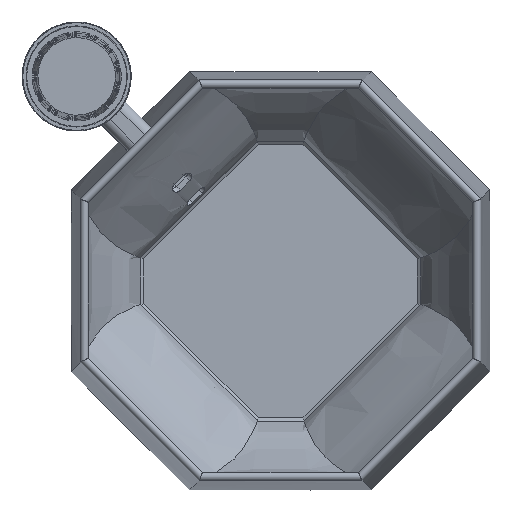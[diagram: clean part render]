
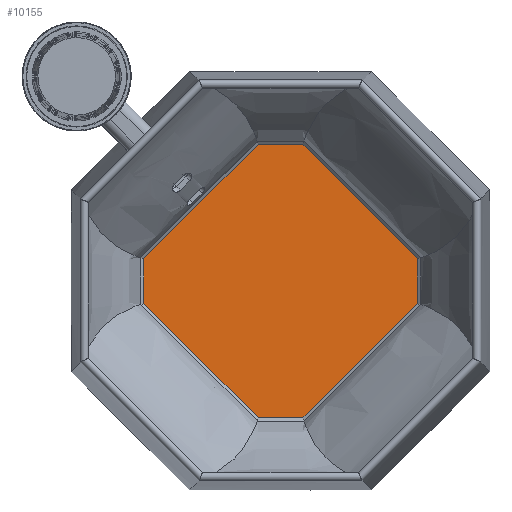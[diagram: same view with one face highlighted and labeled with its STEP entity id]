
A CAD part, top view. The second image highlights one B-rep face of the part: STEP entity #10155.
In plain terms, the highlighted planar face has unit normal (0, 0, 1).
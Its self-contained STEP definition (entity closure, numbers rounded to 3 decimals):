
#912=PLANE('',#11316);
#3103=FACE_OUTER_BOUND('',#3706,.T.);
#3706=EDGE_LOOP('',(#9539,#9540,#9541,#9542,#9543,#9544,#9545,#9546));
#3879=B_SPLINE_CURVE_WITH_KNOTS('',3,(#23145,#23146,#23147,#23148,#23149,
#23150),.UNSPECIFIED.,.F.,.F.,(4,2,4),(0.093,2.544,
4.994),.UNSPECIFIED.);
#3882=B_SPLINE_CURVE_WITH_KNOTS('',3,(#23178,#23179,#23180,#23181,#23182,
#23183),.UNSPECIFIED.,.F.,.F.,(4,2,4),(0.079,0.758,
1.438),.UNSPECIFIED.);
#3885=B_SPLINE_CURVE_WITH_KNOTS('',3,(#23213,#23214,#23215,#23216,#23217,
#23218),.UNSPECIFIED.,.F.,.F.,(4,2,4),(0.079,0.758,
1.438),.UNSPECIFIED.);
#3888=B_SPLINE_CURVE_WITH_KNOTS('',3,(#23247,#23248,#23249,#23250,#23251,
#23252),.UNSPECIFIED.,.F.,.F.,(4,2,4),(0.079,0.758,
1.438),.UNSPECIFIED.);
#3890=B_SPLINE_CURVE_WITH_KNOTS('',3,(#23276,#23277,#23278,#23279,#23280,
#23281),.UNSPECIFIED.,.F.,.F.,(4,2,4),(0.093,2.544,
4.994),.UNSPECIFIED.);
#3892=B_SPLINE_CURVE_WITH_KNOTS('',3,(#23305,#23306,#23307,#23308,#23309,
#23310),.UNSPECIFIED.,.F.,.F.,(4,2,4),(0.079,0.758,
1.438),.UNSPECIFIED.);
#3894=B_SPLINE_CURVE_WITH_KNOTS('',3,(#23333,#23334,#23335,#23336,#23337,
#23338),.UNSPECIFIED.,.F.,.F.,(4,2,4),(0.093,2.544,
4.994),.UNSPECIFIED.);
#3895=B_SPLINE_CURVE_WITH_KNOTS('',3,(#23355,#23356,#23357,#23358,#23359,
#23360),.UNSPECIFIED.,.F.,.F.,(4,2,4),(0.093,2.544,
4.994),.UNSPECIFIED.);
#4940=VERTEX_POINT('',#23137);
#4941=VERTEX_POINT('',#23144);
#4942=VERTEX_POINT('',#23177);
#4943=VERTEX_POINT('',#23206);
#4944=VERTEX_POINT('',#23239);
#4945=VERTEX_POINT('',#23246);
#4946=VERTEX_POINT('',#23275);
#4947=VERTEX_POINT('',#23304);
#6474=EDGE_CURVE('',#4941,#4940,#3879,.T.);
#6477=EDGE_CURVE('',#4942,#4941,#3882,.T.);
#6480=EDGE_CURVE('',#4940,#4943,#3885,.T.);
#6483=EDGE_CURVE('',#4945,#4944,#3888,.T.);
#6485=EDGE_CURVE('',#4946,#4945,#3890,.T.);
#6487=EDGE_CURVE('',#4947,#4946,#3892,.T.);
#6489=EDGE_CURVE('',#4943,#4947,#3894,.T.);
#6490=EDGE_CURVE('',#4944,#4942,#3895,.T.);
#9539=ORIENTED_EDGE('',*,*,#6483,.T.);
#9540=ORIENTED_EDGE('',*,*,#6490,.T.);
#9541=ORIENTED_EDGE('',*,*,#6477,.T.);
#9542=ORIENTED_EDGE('',*,*,#6474,.T.);
#9543=ORIENTED_EDGE('',*,*,#6480,.T.);
#9544=ORIENTED_EDGE('',*,*,#6489,.T.);
#9545=ORIENTED_EDGE('',*,*,#6487,.T.);
#9546=ORIENTED_EDGE('',*,*,#6485,.T.);
#10155=ADVANCED_FACE('',(#3103),#912,.T.);
#11316=AXIS2_PLACEMENT_3D('',#23505,#14266,#14267);
#14266=DIRECTION('center_axis',(0.,0.,1.));
#14267=DIRECTION('ref_axis',(1.,0.,0.));
#23137=CARTESIAN_POINT('',(-10.927,-37.314,1.35));
#23144=CARTESIAN_POINT('',(-45.583,-2.658,1.35));
#23145=CARTESIAN_POINT('Ctrl Pts',(-45.583,-2.658,
1.35));
#23146=CARTESIAN_POINT('Ctrl Pts',(-39.807,-8.434,
1.35));
#23147=CARTESIAN_POINT('Ctrl Pts',(-34.031,-14.21,
1.35));
#23148=CARTESIAN_POINT('Ctrl Pts',(-22.479,-25.762,
1.35));
#23149=CARTESIAN_POINT('Ctrl Pts',(-16.703,-31.538,
1.35));
#23150=CARTESIAN_POINT('Ctrl Pts',(-10.927,-37.314,
1.35));
#23177=CARTESIAN_POINT('',(-45.583,10.927,1.35));
#23178=CARTESIAN_POINT('Ctrl Pts',(-45.583,10.927,1.35));
#23179=CARTESIAN_POINT('Ctrl Pts',(-45.583,8.663,1.35));
#23180=CARTESIAN_POINT('Ctrl Pts',(-45.583,6.399,1.35));
#23181=CARTESIAN_POINT('Ctrl Pts',(-45.583,1.871,1.35));
#23182=CARTESIAN_POINT('Ctrl Pts',(-45.583,-0.394,
1.35));
#23183=CARTESIAN_POINT('Ctrl Pts',(-45.583,-2.658,
1.35));
#23206=CARTESIAN_POINT('',(2.658,-37.314,1.35));
#23213=CARTESIAN_POINT('Ctrl Pts',(-10.927,-37.314,
1.35));
#23214=CARTESIAN_POINT('Ctrl Pts',(-8.663,-37.314,
1.35));
#23215=CARTESIAN_POINT('Ctrl Pts',(-6.399,-37.314,1.35));
#23216=CARTESIAN_POINT('Ctrl Pts',(-1.871,-37.314,
1.35));
#23217=CARTESIAN_POINT('Ctrl Pts',(0.394,-37.314,
1.35));
#23218=CARTESIAN_POINT('Ctrl Pts',(2.658,-37.314,1.35));
#23239=CARTESIAN_POINT('',(-10.927,45.583,1.35));
#23246=CARTESIAN_POINT('',(2.658,45.583,1.35));
#23247=CARTESIAN_POINT('Ctrl Pts',(2.658,45.583,1.35));
#23248=CARTESIAN_POINT('Ctrl Pts',(0.394,45.583,1.35));
#23249=CARTESIAN_POINT('Ctrl Pts',(-1.871,45.583,1.35));
#23250=CARTESIAN_POINT('Ctrl Pts',(-6.399,45.583,1.35));
#23251=CARTESIAN_POINT('Ctrl Pts',(-8.663,45.583,1.35));
#23252=CARTESIAN_POINT('Ctrl Pts',(-10.927,45.583,1.35));
#23275=CARTESIAN_POINT('',(37.314,10.927,1.35));
#23276=CARTESIAN_POINT('Ctrl Pts',(37.314,10.927,1.35));
#23277=CARTESIAN_POINT('Ctrl Pts',(31.538,16.703,1.35));
#23278=CARTESIAN_POINT('Ctrl Pts',(25.762,22.479,1.35));
#23279=CARTESIAN_POINT('Ctrl Pts',(14.21,34.031,1.35));
#23280=CARTESIAN_POINT('Ctrl Pts',(8.434,39.807,1.35));
#23281=CARTESIAN_POINT('Ctrl Pts',(2.658,45.583,1.35));
#23304=CARTESIAN_POINT('',(37.314,-2.658,1.35));
#23305=CARTESIAN_POINT('Ctrl Pts',(37.314,-2.658,1.35));
#23306=CARTESIAN_POINT('Ctrl Pts',(37.314,-0.394,
1.35));
#23307=CARTESIAN_POINT('Ctrl Pts',(37.314,1.871,1.35));
#23308=CARTESIAN_POINT('Ctrl Pts',(37.314,6.399,1.35));
#23309=CARTESIAN_POINT('Ctrl Pts',(37.314,8.663,1.35));
#23310=CARTESIAN_POINT('Ctrl Pts',(37.314,10.927,1.35));
#23333=CARTESIAN_POINT('Ctrl Pts',(2.658,-37.314,1.35));
#23334=CARTESIAN_POINT('Ctrl Pts',(8.434,-31.538,1.35));
#23335=CARTESIAN_POINT('Ctrl Pts',(14.21,-25.762,1.35));
#23336=CARTESIAN_POINT('Ctrl Pts',(25.762,-14.21,1.35));
#23337=CARTESIAN_POINT('Ctrl Pts',(31.538,-8.434,1.35));
#23338=CARTESIAN_POINT('Ctrl Pts',(37.314,-2.658,1.35));
#23355=CARTESIAN_POINT('Ctrl Pts',(-10.927,45.583,1.35));
#23356=CARTESIAN_POINT('Ctrl Pts',(-16.703,39.807,1.35));
#23357=CARTESIAN_POINT('Ctrl Pts',(-22.479,34.031,1.35));
#23358=CARTESIAN_POINT('Ctrl Pts',(-34.031,22.479,1.35));
#23359=CARTESIAN_POINT('Ctrl Pts',(-39.807,16.703,1.35));
#23360=CARTESIAN_POINT('Ctrl Pts',(-45.583,10.927,1.35));
#23505=CARTESIAN_POINT('Origin',(-4.135,4.135,1.35));
